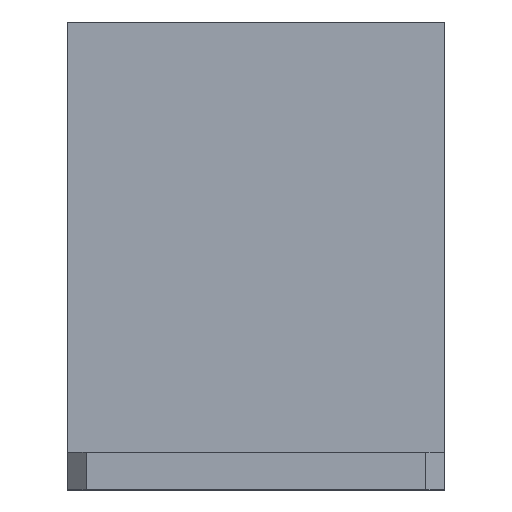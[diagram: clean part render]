
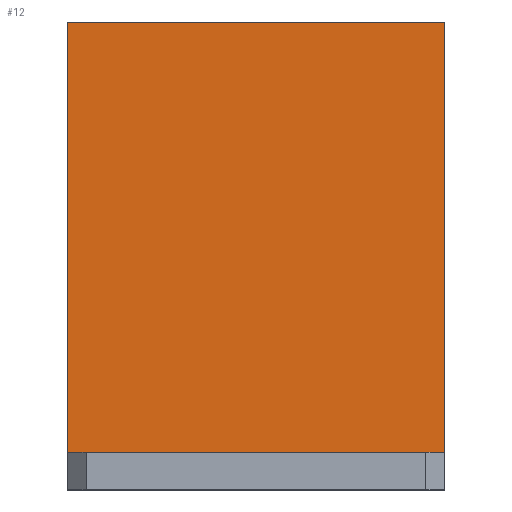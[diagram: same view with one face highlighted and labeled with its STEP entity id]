
A CAD part, top view. The second image highlights one B-rep face of the part: STEP entity #12.
In plain terms, the highlighted planar face has unit normal (0, 0, 1).
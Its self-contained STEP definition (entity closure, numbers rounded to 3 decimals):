
#4 = CARTESIAN_POINT ( 'NONE',  ( 50., 124., 10. ) ) ;
#9 = EDGE_CURVE ( 'NONE', #492, #286, #989, .T. ) ;
#12 = ADVANCED_FACE ( 'NONE', ( #305 ), #721, .F. ) ;
#86 = VECTOR ( 'NONE', #523, 1000. ) ;
#100 = LINE ( 'NONE', #161, #545 ) ;
#161 = CARTESIAN_POINT ( 'NONE',  ( -50., 124., 10. ) ) ;
#179 = ORIENTED_EDGE ( 'NONE', *, *, #333, .T. ) ;
#245 = CARTESIAN_POINT ( 'NONE',  ( -50., 124., 10. ) ) ;
#260 = LINE ( 'NONE', #850, #860 ) ;
#286 = VERTEX_POINT ( 'NONE', #846 ) ;
#305 = FACE_OUTER_BOUND ( 'NONE', #859, .T. ) ;
#333 = EDGE_CURVE ( 'NONE', #492, #601, #687, .T. ) ;
#441 = EDGE_CURVE ( 'NONE', #286, #494, #260, .T. ) ;
#478 = CARTESIAN_POINT ( 'NONE',  ( 50., 124., 10. ) ) ;
#486 = ORIENTED_EDGE ( 'NONE', *, *, #614, .T. ) ;
#492 = VERTEX_POINT ( 'NONE', #478 ) ;
#494 = VERTEX_POINT ( 'NONE', #815 ) ;
#517 = DIRECTION ( 'NONE',  ( 0., -1., 0. ) ) ;
#521 = CARTESIAN_POINT ( 'NONE',  ( 50., 124., 10. ) ) ;
#523 = DIRECTION ( 'NONE',  ( -1., 0., 0. ) ) ;
#545 = VECTOR ( 'NONE', #517, 1000. ) ;
#547 = DIRECTION ( 'NONE',  ( 0., 0., -1. ) ) ;
#601 = VERTEX_POINT ( 'NONE', #245 ) ;
#603 = CARTESIAN_POINT ( 'NONE',  ( 50., 124., 10. ) ) ;
#614 = EDGE_CURVE ( 'NONE', #601, #494, #100, .T. ) ;
#687 = LINE ( 'NONE', #4, #86 ) ;
#721 = PLANE ( 'NONE',  #976 ) ;
#749 = VECTOR ( 'NONE', #967, 1000. ) ;
#815 = CARTESIAN_POINT ( 'NONE',  ( -50., 10., 10. ) ) ;
#846 = CARTESIAN_POINT ( 'NONE',  ( 50., 10., 10. ) ) ;
#850 = CARTESIAN_POINT ( 'NONE',  ( 50., 10., 10. ) ) ;
#857 = ORIENTED_EDGE ( 'NONE', *, *, #441, .F. ) ;
#859 = EDGE_LOOP ( 'NONE', ( #486, #857, #866, #179 ) ) ;
#860 = VECTOR ( 'NONE', #926, 1000. ) ;
#866 = ORIENTED_EDGE ( 'NONE', *, *, #9, .F. ) ;
#867 = DIRECTION ( 'NONE',  ( 0., 1., 0. ) ) ;
#926 = DIRECTION ( 'NONE',  ( -1., 0., 0. ) ) ;
#967 = DIRECTION ( 'NONE',  ( 0., -1., 0. ) ) ;
#976 = AXIS2_PLACEMENT_3D ( 'NONE', #521, #547, #867 ) ;
#989 = LINE ( 'NONE', #603, #749 ) ;
